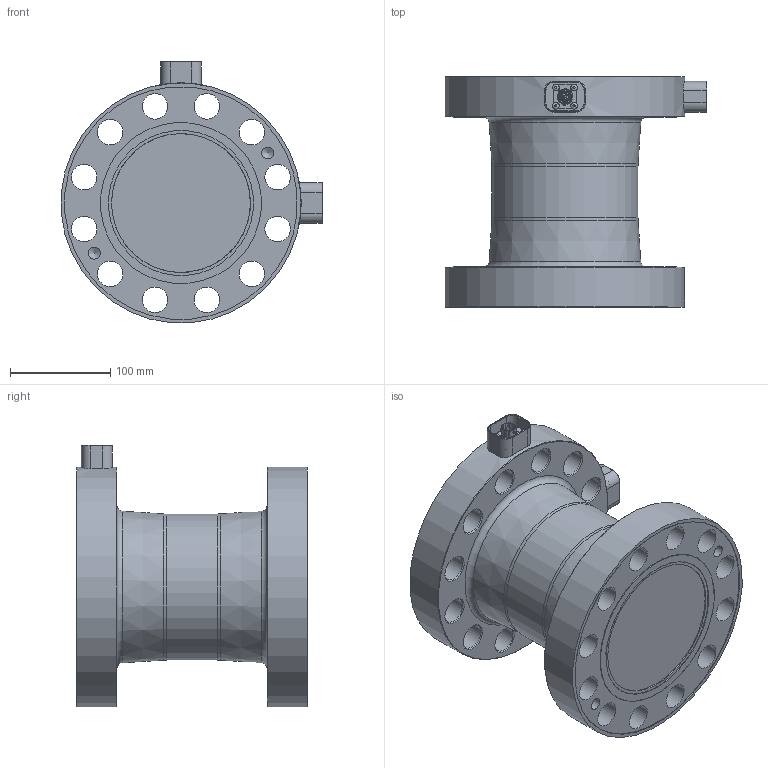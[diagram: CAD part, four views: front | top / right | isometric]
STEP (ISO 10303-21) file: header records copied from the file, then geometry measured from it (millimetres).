
FILE_DESCRIPTION (( 'STEP AP203' ), '1' );
FILE_NAME ('81041.STEP', '2018-11-21T17:58:04', ( '' ), ( '' ), 'SwSTEP 2.0', 'SolidWorks 2018', '' );
FILE_SCHEMA (( 'CONFIG_CONTROL_DESIGN' ));
Length unit declared in the file: inch
Products named in the file (1): 81041
Bounding box: 261.15 x 230 x 261.15 mm (x, y, z)
Volume: 5674711.7 mm3; surface area: 339336.4 mm2
Topology: 1 solids, 1 shells, 701 faces, 1722 edges, 1119 vertices
Faces by surface type: plane 348, bspline 144, cylinder 137, cone 60, sphere 8, torus 4
Full cylindrical faces by diameter (mm): 1.016 x12, 1.274 x6, 2.032 x6, 6.655 x8, 9.652 x2, 10.922 x2, 11.999 x4, 12.7 x2, 13.97 x2, 14.684 x2, 25.4 x24, 138.709 x2, 145.059 x2, 146.5 x1, 160.807 x2, 232.613 x2, 240 x2
Entity records: 30427 total; most frequent: CARTESIAN_POINT 15316, ORIENTED_EDGE 3104, DIRECTION 2716, EDGE_CURVE 1552, VERTEX_POINT 1080, EDGE_LOOP 976, AXIS2_PLACEMENT_3D 940, LINE 836
